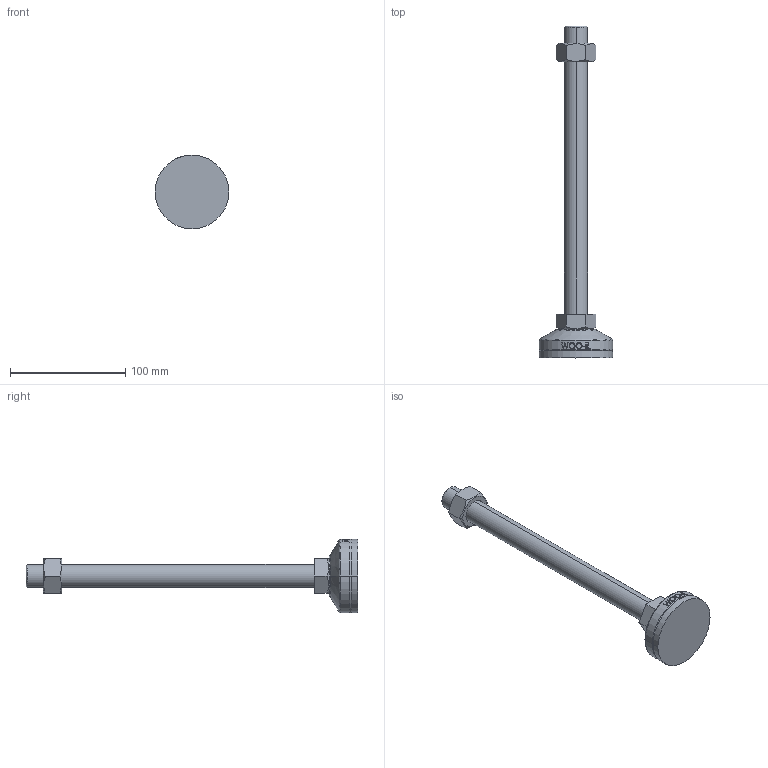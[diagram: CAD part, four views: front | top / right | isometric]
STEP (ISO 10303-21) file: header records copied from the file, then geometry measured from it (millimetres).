
FILE_DESCRIPTION (( 'STEP AP214' ), '1' );
FILE_NAME ('MFR64-M20-250.step', '2021-01-13T05:38:54', ( '' ), ( '' ), 'SwSTEP 2.0', 'SolidWorks 2019', '' );
FILE_SCHEMA (( 'AUTOMOTIVE_DESIGN' ));
Length unit declared in the file: millimetre
Products named in the file (2): MFR64-M20-250
Bounding box: 64 x 288 x 64 mm (x, y, z)
Volume: 164639.3 mm3; surface area: 32359.7 mm2
Topology: 3 solids, 3 shells, 102 faces, 235 edges, 150 vertices
Faces by surface type: plane 48, cylinder 18, bspline 16, cone 14, torus 6
Entity records: 4386 total; most frequent: CARTESIAN_POINT 2131, ORIENTED_EDGE 470, DIRECTION 415, EDGE_CURVE 235, AXIS2_PLACEMENT_3D 158, VERTEX_POINT 150, EDGE_LOOP 115, ADVANCED_FACE 102
